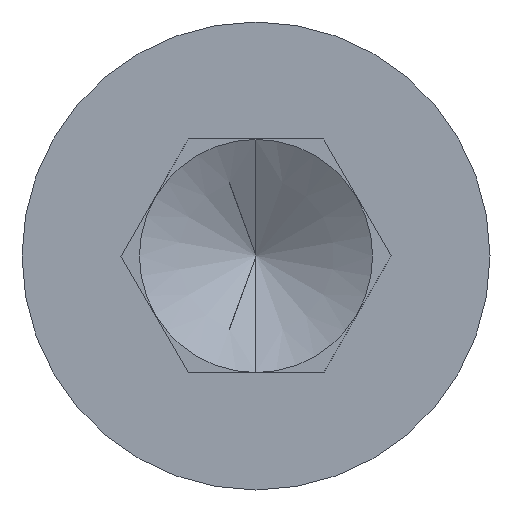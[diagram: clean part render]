
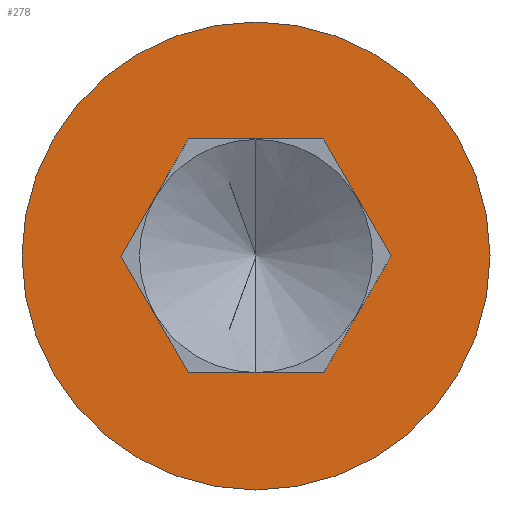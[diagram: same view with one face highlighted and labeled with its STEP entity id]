
A CAD part, left-side view. The second image highlights one B-rep face of the part: STEP entity #278.
In plain terms, the highlighted planar face has unit normal (-1, 0, 0).
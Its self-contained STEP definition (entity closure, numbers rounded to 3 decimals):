
#11 = EDGE_CURVE ( 'NONE', #537, #229, #760, .T. ) ;
#16 = CIRCLE ( 'NONE', #289, 5. ) ;
#19 = CIRCLE ( 'NONE', #414, 5. ) ;
#34 = ORIENTED_EDGE ( 'NONE', *, *, #11, .T. ) ;
#69 = CARTESIAN_POINT ( 'NONE',  ( -6., 0., 0. ) ) ;
#82 = EDGE_CURVE ( 'NONE', #212, #525, #19, .T. ) ;
#117 = CARTESIAN_POINT ( 'NONE',  ( -6., -1.443, -2.5 ) ) ;
#127 = CARTESIAN_POINT ( 'NONE',  ( -6., 2.5, 0. ) ) ;
#132 = FACE_OUTER_BOUND ( 'NONE', #174, .T. ) ;
#142 = CARTESIAN_POINT ( 'NONE',  ( -6., -2.887, 0. ) ) ;
#148 = VERTEX_POINT ( 'NONE', #728 ) ;
#171 = CARTESIAN_POINT ( 'NONE',  ( -6., -2.887, 0. ) ) ;
#172 = CARTESIAN_POINT ( 'NONE',  ( -6., 2.887, 0. ) ) ;
#174 = EDGE_LOOP ( 'NONE', ( #392, #515 ) ) ;
#200 = DIRECTION ( 'NONE',  ( 0., 0., 1. ) ) ;
#212 = VERTEX_POINT ( 'NONE', #584 ) ;
#218 = LINE ( 'NONE', #294, #511 ) ;
#229 = VERTEX_POINT ( 'NONE', #117 ) ;
#254 = DIRECTION ( 'NONE',  ( 0., -1., 0. ) ) ;
#256 = CARTESIAN_POINT ( 'NONE',  ( -6., -1.443, 2.5 ) ) ;
#261 = EDGE_CURVE ( 'NONE', #229, #401, #436, .T. ) ;
#263 = DIRECTION ( 'NONE',  ( 0., 0.5, 0.866 ) ) ;
#266 = VECTOR ( 'NONE', #772, 1000. ) ;
#278 = ADVANCED_FACE ( 'NONE', ( #610, #132 ), #509, .T. ) ;
#280 = ORIENTED_EDGE ( 'NONE', *, *, #662, .T. ) ;
#282 = VECTOR ( 'NONE', #420, 1000. ) ;
#289 = AXIS2_PLACEMENT_3D ( 'NONE', #69, #517, #400 ) ;
#294 = CARTESIAN_POINT ( 'NONE',  ( -6., 2.887, 0. ) ) ;
#295 = EDGE_CURVE ( 'NONE', #525, #212, #16, .T. ) ;
#307 = VECTOR ( 'NONE', #263, 1000. ) ;
#311 = DIRECTION ( 'NONE',  ( 1., 0., 0. ) ) ;
#326 = CARTESIAN_POINT ( 'NONE',  ( -6., 1.443, -2.5 ) ) ;
#333 = EDGE_LOOP ( 'NONE', ( #546, #624, #367, #492, #280, #34 ) ) ;
#338 = AXIS2_PLACEMENT_3D ( 'NONE', #127, #576, #200 ) ;
#343 = EDGE_CURVE ( 'NONE', #148, #344, #402, .T. ) ;
#344 = VERTEX_POINT ( 'NONE', #256 ) ;
#367 = ORIENTED_EDGE ( 'NONE', *, *, #775, .T. ) ;
#389 = EDGE_CURVE ( 'NONE', #401, #675, #464, .T. ) ;
#392 = ORIENTED_EDGE ( 'NONE', *, *, #82, .F. ) ;
#400 = DIRECTION ( 'NONE',  ( 0., 0., 1. ) ) ;
#401 = VERTEX_POINT ( 'NONE', #326 ) ;
#402 = LINE ( 'NONE', #755, #731 ) ;
#414 = AXIS2_PLACEMENT_3D ( 'NONE', #696, #311, #752 ) ;
#420 = DIRECTION ( 'NONE',  ( 0., -0.5, -0.866 ) ) ;
#436 = LINE ( 'NONE', #714, #266 ) ;
#464 = LINE ( 'NONE', #802, #307 ) ;
#492 = ORIENTED_EDGE ( 'NONE', *, *, #343, .T. ) ;
#493 = DIRECTION ( 'NONE',  ( 0., -0.5, 0.866 ) ) ;
#509 = PLANE ( 'NONE',  #338 ) ;
#511 = VECTOR ( 'NONE', #493, 1000. ) ;
#515 = ORIENTED_EDGE ( 'NONE', *, *, #295, .F. ) ;
#517 = DIRECTION ( 'NONE',  ( 1., 0., 0. ) ) ;
#525 = VERTEX_POINT ( 'NONE', #635 ) ;
#537 = VERTEX_POINT ( 'NONE', #142 ) ;
#546 = ORIENTED_EDGE ( 'NONE', *, *, #261, .T. ) ;
#555 = DIRECTION ( 'NONE',  ( 0., 0.5, -0.866 ) ) ;
#576 = DIRECTION ( 'NONE',  ( -1., 0., 0. ) ) ;
#584 = CARTESIAN_POINT ( 'NONE',  ( -6., 0., 5. ) ) ;
#596 = VECTOR ( 'NONE', #555, 1000. ) ;
#610 = FACE_BOUND ( 'NONE', #333, .T. ) ;
#624 = ORIENTED_EDGE ( 'NONE', *, *, #389, .T. ) ;
#635 = CARTESIAN_POINT ( 'NONE',  ( -6., 0., -5. ) ) ;
#662 = EDGE_CURVE ( 'NONE', #344, #537, #765, .T. ) ;
#675 = VERTEX_POINT ( 'NONE', #172 ) ;
#696 = CARTESIAN_POINT ( 'NONE',  ( -6., 0., 0. ) ) ;
#714 = CARTESIAN_POINT ( 'NONE',  ( -6., 2.5, -2.5 ) ) ;
#728 = CARTESIAN_POINT ( 'NONE',  ( -6., 1.443, 2.5 ) ) ;
#731 = VECTOR ( 'NONE', #254, 1000. ) ;
#752 = DIRECTION ( 'NONE',  ( 0., 0., 1. ) ) ;
#755 = CARTESIAN_POINT ( 'NONE',  ( -6., 2.5, 2.5 ) ) ;
#760 = LINE ( 'NONE', #171, #596 ) ;
#765 = LINE ( 'NONE', #786, #282 ) ;
#772 = DIRECTION ( 'NONE',  ( 0., 1., 0. ) ) ;
#775 = EDGE_CURVE ( 'NONE', #675, #148, #218, .T. ) ;
#786 = CARTESIAN_POINT ( 'NONE',  ( -6., -1.443, 2.5 ) ) ;
#802 = CARTESIAN_POINT ( 'NONE',  ( -6., 1.443, -2.5 ) ) ;
